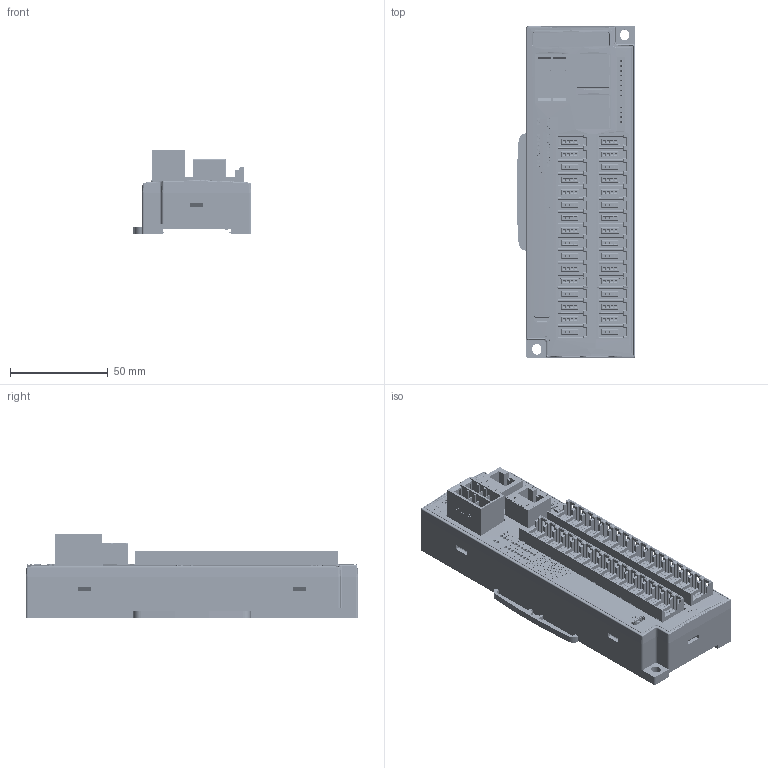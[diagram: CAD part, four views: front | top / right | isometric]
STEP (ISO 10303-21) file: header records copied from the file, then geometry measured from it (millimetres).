
FILE_DESCRIPTION((''),'2;1');
FILE_NAME('EIEPW0','2026-05-11T16:20:57',('gijyu181'),(''),'CREO PARAMETRIC BY PTC INC, 2018050','CREO PARAMETRIC BY PTC INC, 2018050','');
FILE_SCHEMA(('CONFIG_CONTROL_DESIGN','SHAPE_APPEARANCE_LAYERS_GROUPS'));
Products named in the file (1): EIEPW0
Bounding box: 60.87 x 170 x 42.6 mm (x, y, z)
Volume: 275220.6 mm3; surface area: 162531.9 mm2
Topology: 653 solids, 653 shells, 17493 faces, 46397 edges, 30958 vertices
Faces by surface type: plane 12819, extrusion 2443, cylinder 2096, bspline 69, cone 41, torus 21, sphere 4
Entity records: 667160 total; most frequent: CARTESIAN_POINT 151478, ORIENTED_EDGE 92794, DIRECTION 77483, EDGE_CURVE 46397, VECTOR 38169, LINE 35726, VERTEX_POINT 30958, AXIS2_PLACEMENT_3D 19657
